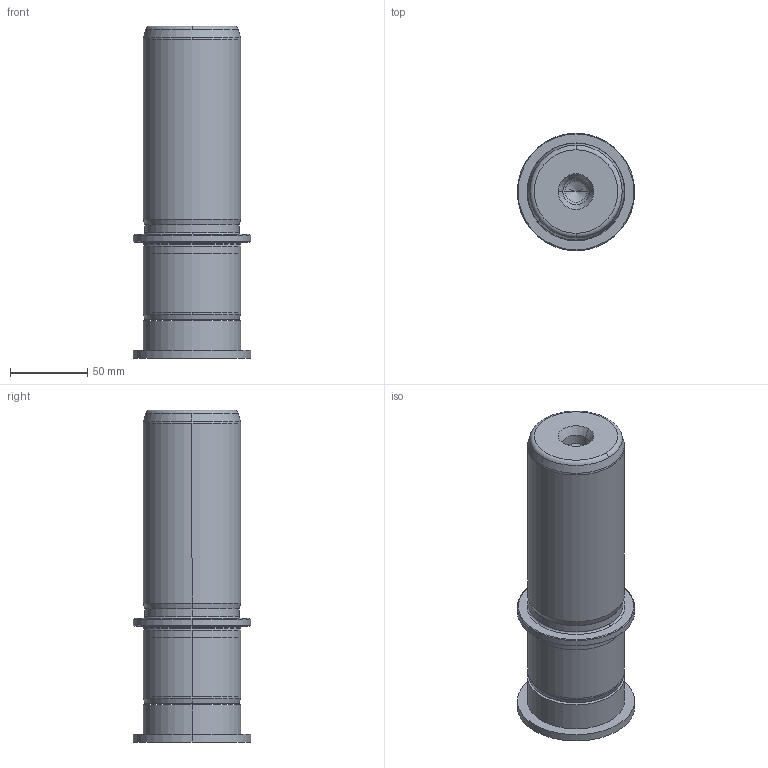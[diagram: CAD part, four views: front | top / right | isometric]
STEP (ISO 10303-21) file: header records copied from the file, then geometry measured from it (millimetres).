
FILE_DESCRIPTION((''),'2;1');
FILE_NAME('P22_063_140.stp','2009-02-06T15:50:13',(''),(''),'Mechanical Desktop 2009','Mechanical Desktop 2009',', , ');
FILE_SCHEMA(('CONFIG_CONTROL_DESIGN'));
Length unit declared in the file: millimetre
Products named in the file (2): Product; blmdl1
Assembly tree (1 placements, depth 2):
  Product
    blmdl1
Bounding box: 76 x 76 x 215 mm (x, y, z)
Volume: 663938.4 mm3; surface area: 69869.4 mm2
Topology: 3 solids, 3 shells, 99 faces, 237 edges, 149 vertices
Faces by surface type: cylinder 32, cone 28, plane 19, torus 10, bspline 10
Entity records: 3419 total; most frequent: CARTESIAN_POINT 923, DIRECTION 570, ORIENTED_EDGE 466, AXIS2_PLACEMENT_3D 246, EDGE_CURVE 233, CIRCLE 155, VERTEX_POINT 149, EDGE_LOOP 110
